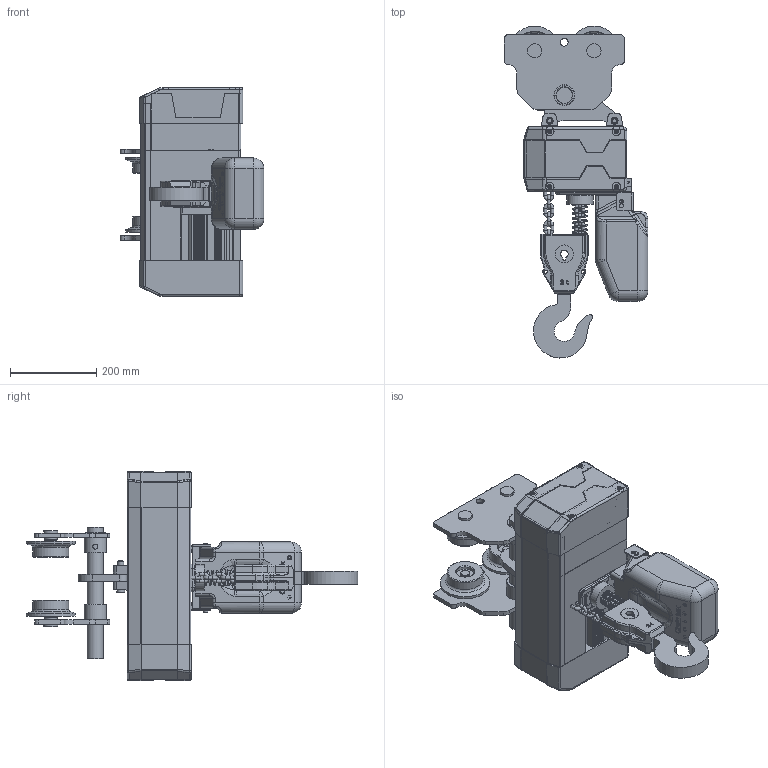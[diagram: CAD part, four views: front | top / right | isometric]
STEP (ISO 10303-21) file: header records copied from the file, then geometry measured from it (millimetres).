
FILE_DESCRIPTION(/* description */ (''),/* implementation_level */ '2;1');
FILE_NAME(/* name */ 'YJ 02-02 手拉式.stp',/* time_stamp */ '2026-07-08T09:04:25+08:00',/* author */ (''),/* organization */ (''),/* preprocessor_version */ 'ST-DEVELOPER v16.7',/* originating_system */ 'SIEMENS PLM Software NX 12.0',/* authorisation */ '');
FILE_SCHEMA (('AUTOMOTIVE_DESIGN { 1 0 10303 214 3 1 1 1 }'));
Products named in the file (1): A95BC464Ftym4
Bounding box: 334.47 x 771.87 x 486.2 mm (x, y, z)
Volume: 14874492.1 mm3; surface area: 1826055.9 mm2
Topology: 36 solids, 53 shells, 3420 faces, 8354 edges, 5117 vertices
Faces by surface type: plane 1294, cylinder 1074, bspline 493, torus 322, cone 163, sphere 74
Full cylindrical faces by diameter (mm): 1.467 x1, 1.707 x1, 2.14 x1, 2.5 x2, 3.4 x2, 4 x2, 4.2 x4, 4.5 x4, 4.826 x4, 5.795 x4, 5.8 x2, 6 x2, 6.2 x2, 6.6 x8, 6.8 x4, 7 x2, 7.1 x46, 7.46 x1, 8 x4, 8.5 x4, 9 x6, 10 x4, 10.2 x8, 11.5 x2, 12.8 x4, 14 x2, 15 x2, 15.037 x4, 16.5 x1, 18 x4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
Entity records: 117793 total; most frequent: CARTESIAN_POINT 42813, ORIENTED_EDGE 15424, DIRECTION 14551, EDGE_CURVE 7712, AXIS2_PLACEMENT_3D 5340, VERTEX_POINT 4966, EDGE_LOOP 4148, LINE 3871
